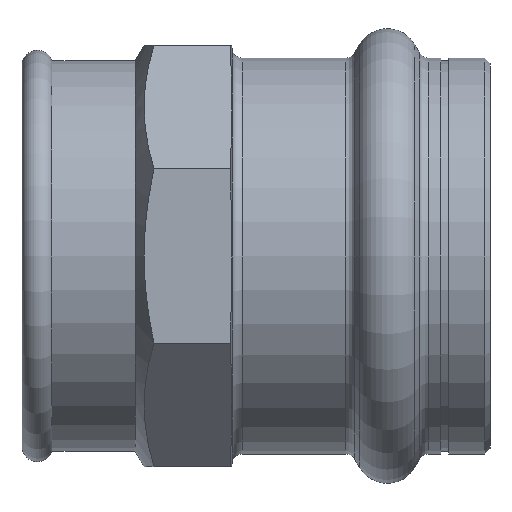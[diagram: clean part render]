
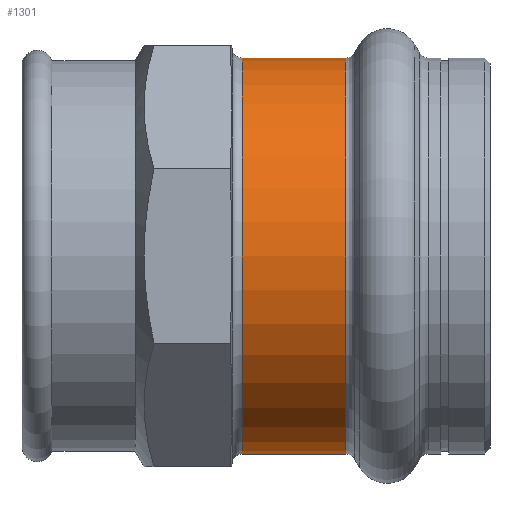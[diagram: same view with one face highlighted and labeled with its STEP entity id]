
A CAD part, left-side view. The second image highlights one B-rep face of the part: STEP entity #1301.
In plain terms, the highlighted cylindrical face has radius 19.25 mm (diameter 38.5 mm), a partial arc.
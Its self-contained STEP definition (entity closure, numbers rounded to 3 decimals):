
#253 = ORIENTED_EDGE ( 'NONE', *, *, #1717, .F. ) ;
#257 = CARTESIAN_POINT ( 'NONE',  ( 0., 24.084, -19.25 ) ) ;
#353 = CIRCLE ( 'NONE', #1697, 19.25 ) ;
#376 = EDGE_CURVE ( 'NONE', #1573, #963, #1640, .T. ) ;
#457 = CARTESIAN_POINT ( 'NONE',  ( 0., 14.013, 19.25 ) ) ;
#463 = LINE ( 'NONE', #1094, #1866 ) ;
#600 = ORIENTED_EDGE ( 'NONE', *, *, #376, .F. ) ;
#624 = DIRECTION ( 'NONE',  ( 0., -1., 0. ) ) ;
#702 = DIRECTION ( 'NONE',  ( 0., 0., -1. ) ) ;
#705 = CARTESIAN_POINT ( 'NONE',  ( 0., 14.013, 0. ) ) ;
#735 = DIRECTION ( 'NONE',  ( 0., 0., -1. ) ) ;
#749 = VERTEX_POINT ( 'NONE', #257 ) ;
#753 = DIRECTION ( 'NONE',  ( 0., 0., -1. ) ) ;
#824 = CARTESIAN_POINT ( 'NONE',  ( 0., -17.811, 19.25 ) ) ;
#872 = ORIENTED_EDGE ( 'NONE', *, *, #1686, .T. ) ;
#888 = ORIENTED_EDGE ( 'NONE', *, *, #1376, .T. ) ;
#914 = CYLINDRICAL_SURFACE ( 'NONE', #1612, 19.25 ) ;
#918 = DIRECTION ( 'NONE',  ( 0., -1., 0. ) ) ;
#948 = CARTESIAN_POINT ( 'NONE',  ( 0., 14.013, -19.25 ) ) ;
#963 = VERTEX_POINT ( 'NONE', #948 ) ;
#1031 = DIRECTION ( 'NONE',  ( 0., -1., 0. ) ) ;
#1084 = DIRECTION ( 'NONE',  ( 0., -1., 0. ) ) ;
#1094 = CARTESIAN_POINT ( 'NONE',  ( 0., -17.811, -19.25 ) ) ;
#1115 = CARTESIAN_POINT ( 'NONE',  ( 0., -17.811, 0. ) ) ;
#1272 = AXIS2_PLACEMENT_3D ( 'NONE', #705, #624, #753 ) ;
#1301 = ADVANCED_FACE ( 'NONE', ( #1503 ), #914, .T. ) ;
#1317 = CARTESIAN_POINT ( 'NONE',  ( 0., 24.084, 0. ) ) ;
#1376 = EDGE_CURVE ( 'NONE', #1653, #749, #353, .T. ) ;
#1438 = EDGE_LOOP ( 'NONE', ( #253, #888, #872, #600 ) ) ;
#1475 = VECTOR ( 'NONE', #918, 1000. ) ;
#1503 = FACE_OUTER_BOUND ( 'NONE', #1438, .T. ) ;
#1573 = VERTEX_POINT ( 'NONE', #457 ) ;
#1580 = DIRECTION ( 'NONE',  ( 0., -1., 0. ) ) ;
#1612 = AXIS2_PLACEMENT_3D ( 'NONE', #1115, #1580, #735 ) ;
#1640 = CIRCLE ( 'NONE', #1272, 19.25 ) ;
#1653 = VERTEX_POINT ( 'NONE', #1658 ) ;
#1658 = CARTESIAN_POINT ( 'NONE',  ( 0., 24.084, 19.25 ) ) ;
#1686 = EDGE_CURVE ( 'NONE', #749, #963, #463, .T. ) ;
#1697 = AXIS2_PLACEMENT_3D ( 'NONE', #1317, #1031, #702 ) ;
#1717 = EDGE_CURVE ( 'NONE', #1653, #1573, #1784, .T. ) ;
#1784 = LINE ( 'NONE', #824, #1475 ) ;
#1866 = VECTOR ( 'NONE', #1084, 1000. ) ;
